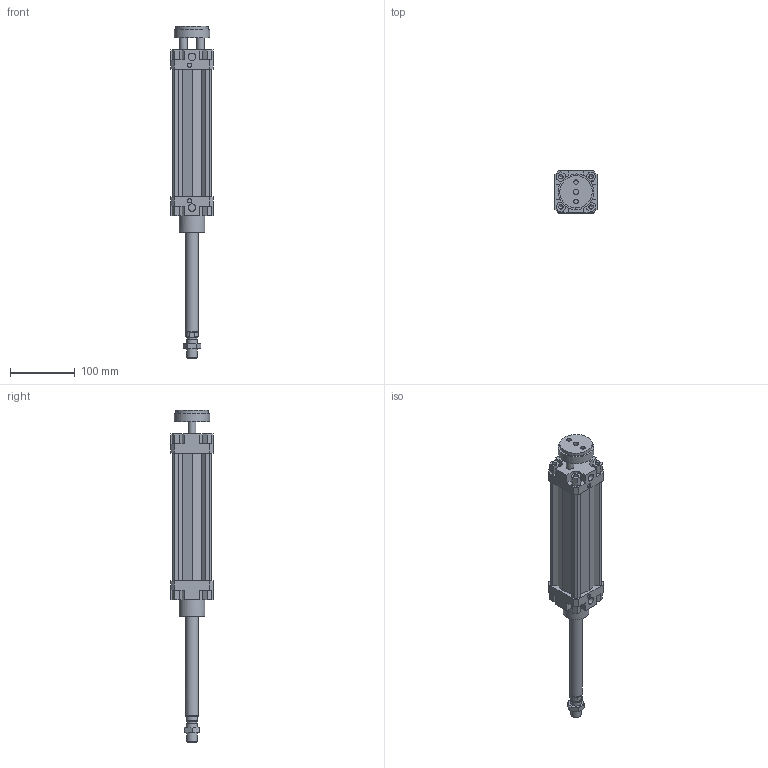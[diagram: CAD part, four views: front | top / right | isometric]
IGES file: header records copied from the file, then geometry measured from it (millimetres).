
Global section: file name: 132#_050_0150_02; native system: Autodesk Inventor 2014; preprocessor: unknown; author: A. Manieri; date: 20161006.155729; units: millimetre
Bounding box: 65 x 65 x 512 mm (x, y, z)
Volume: 683376.2 mm3; surface area: 179280.2 mm2
Topology: 3 solids, 3 shells, 220 faces, 590 edges, 398 vertices
Faces by surface type: bspline 220
